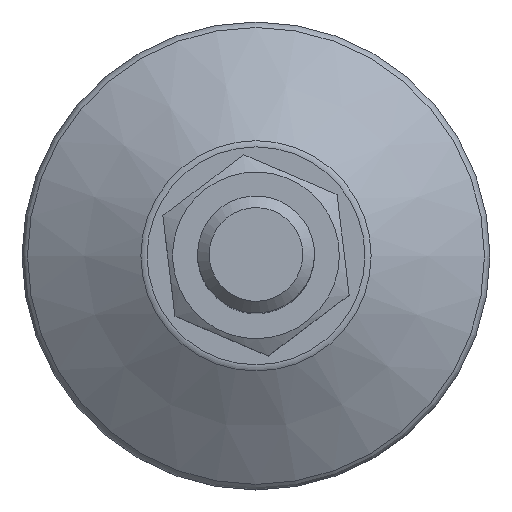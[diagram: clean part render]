
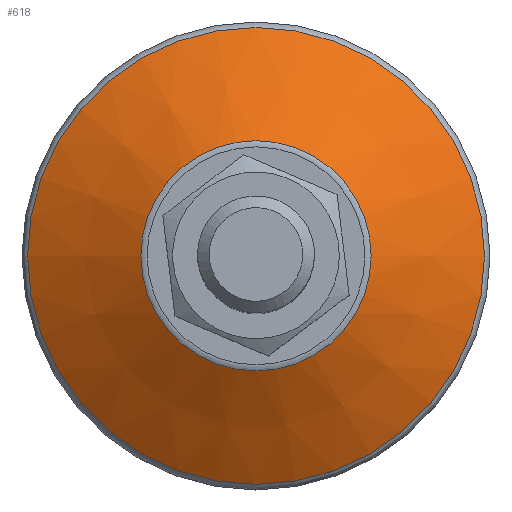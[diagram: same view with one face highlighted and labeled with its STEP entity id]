
A CAD part, top view. The second image highlights one B-rep face of the part: STEP entity #618.
In plain terms, the highlighted conical face has half-angle 58 degrees and reference radius 29.371 mm.
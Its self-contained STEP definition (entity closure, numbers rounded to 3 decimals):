
#618=ADVANCED_FACE('',(#2251,#2253),#2255,.T.);
#2251=FACE_BOUND('',#2252,.T.);
#2252=EDGE_LOOP('',(#3503,#3504));
#2253=FACE_BOUND('',#2254,.T.);
#2254=EDGE_LOOP('',(#3505,#3506));
#2255=CONICAL_SURFACE('',#2256,29.371,1.012);
#2256=AXIS2_PLACEMENT_3D('',#2257,#2258,#2259);
#2257=CARTESIAN_POINT('',(0.,0.,11.642));
#2258=DIRECTION('',(0.,0.,-1.));
#2259=DIRECTION('',(1.,0.,0.));
#3503=ORIENTED_EDGE('',*,*,#4298,.T.);
#3504=ORIENTED_EDGE('',*,*,#4299,.T.);
#3505=ORIENTED_EDGE('',*,*,#4297,.F.);
#3506=ORIENTED_EDGE('',*,*,#4296,.F.);
#4296=EDGE_CURVE('',#4809,#4810,#4811,.T.);
#4297=EDGE_CURVE('',#4810,#4809,#4812,.T.);
#4298=EDGE_CURVE('',#4813,#4814,#4815,.T.);
#4299=EDGE_CURVE('',#4814,#4813,#4816,.T.);
#4809=VERTEX_POINT('',#6644);
#4810=VERTEX_POINT('',#6645);
#4811=CIRCLE('',#6646,19.682);
#4812=CIRCLE('',#6650,19.682);
#4813=VERTEX_POINT('',#6654);
#4814=VERTEX_POINT('',#6655);
#4815=CIRCLE('',#6656,39.06);
#4816=CIRCLE('',#6660,39.06);
#6644=CARTESIAN_POINT('',(19.682,0.,17.696));
#6645=CARTESIAN_POINT('',(-19.682,0.,17.696));
#6646=AXIS2_PLACEMENT_3D('',#6647,#6648,#6649);
#6647=CARTESIAN_POINT('',(0.,0.,17.696));
#6648=DIRECTION('',(0.,0.,1.));
#6649=DIRECTION('',(1.,0.,0.));
#6650=AXIS2_PLACEMENT_3D('',#6651,#6652,#6653);
#6651=CARTESIAN_POINT('',(0.,0.,17.696));
#6652=DIRECTION('',(0.,0.,1.));
#6653=DIRECTION('',(-1.,0.,0.));
#6654=CARTESIAN_POINT('',(39.06,0.,5.587));
#6655=CARTESIAN_POINT('',(-39.06,0.,5.587));
#6656=AXIS2_PLACEMENT_3D('',#6657,#6658,#6659);
#6657=CARTESIAN_POINT('',(0.,0.,5.587));
#6658=DIRECTION('',(0.,0.,1.));
#6659=DIRECTION('',(1.,0.,0.));
#6660=AXIS2_PLACEMENT_3D('',#6661,#6662,#6663);
#6661=CARTESIAN_POINT('',(0.,0.,5.587));
#6662=DIRECTION('',(0.,0.,1.));
#6663=DIRECTION('',(-1.,0.,0.));
